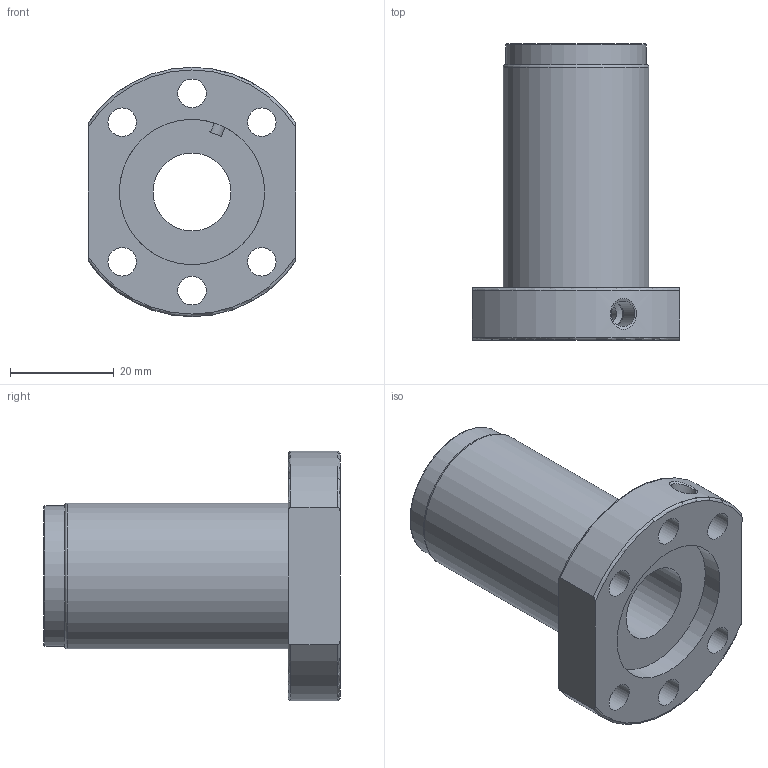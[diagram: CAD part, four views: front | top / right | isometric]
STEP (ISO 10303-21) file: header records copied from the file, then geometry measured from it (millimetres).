
FILE_DESCRIPTION(/* description */ ('Unknown'),/* implementation_level */ '2;1');
FILE_NAME(/* name */ '1520',/* time_stamp */ '2020-11-10T14:04:54+08:00',/* author */ ('Unknown'),/* organization */ ('Unknown'),/* preprocessor_version */ 'ST-DEVELOPER v16.7',/* originating_system */ 'DEX',/* authorisation */ $);
FILE_SCHEMA (('AUTOMOTIVE_DESIGN {1 0 10303 214 3 1 1}'));
Length unit declared in the file: millimetre
Products named in the file (1): 1520
Bounding box: 40 x 57 x 48 mm (x, y, z)
Volume: 31988.5 mm3; surface area: 12243.6 mm2
Topology: 1 solids, 1 shells, 30 faces, 84 edges, 57 vertices
Faces by surface type: cylinder 15, plane 7, torus 6, cone 2
Full cylindrical faces by diameter (mm): 3 x1, 4.917 x2, 5.5 x6, 15 x1, 27 x1, 28 x2
Entity records: 1577 total; most frequent: CARTESIAN_POINT 669, DIRECTION 141, ORIENTED_EDGE 110, AXIS2_PLACEMENT_3D 65, EDGE_LOOP 64, FACE_BOUND 64, EDGE_CURVE 55, VERTEX_POINT 45
